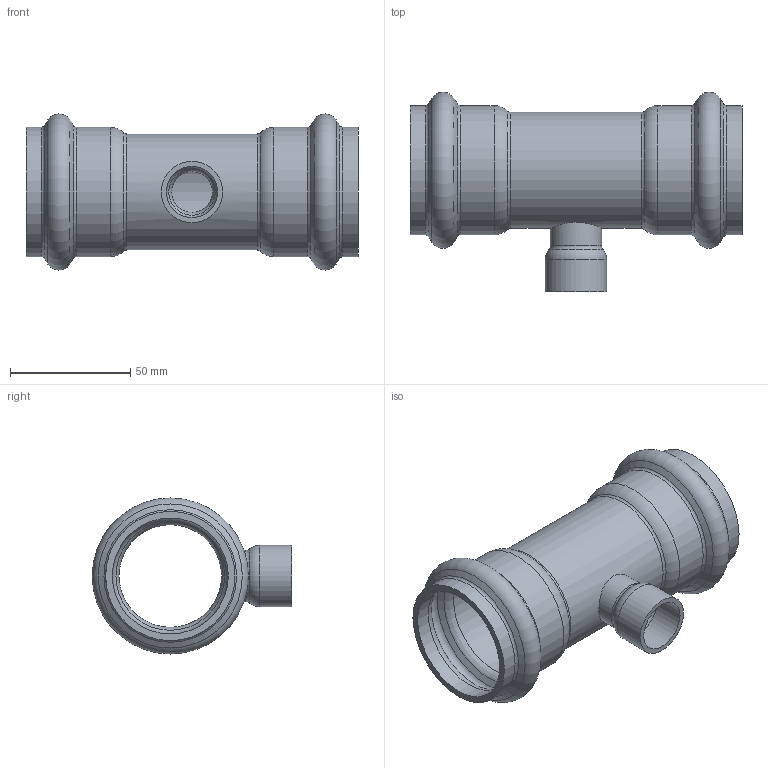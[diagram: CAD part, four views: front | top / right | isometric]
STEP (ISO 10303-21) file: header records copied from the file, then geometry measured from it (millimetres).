
FILE_DESCRIPTION(/* description */ ('VIC TEE RED. BRANCH STYLE P588 (P x P x F)','CAx-IF Rec.Pracs.---Representation and Presentation of Product Manufacturing Information (PMI)---4.0---2014-10-13'),/* implementation_level */ '2;1');
FILE_NAME(/* name */ 'C:\Users\Vjadhav\AppData\Roaming\Autodesk\ApplicationPlugins\Back Up\Victaulic_SS-Vic-Press-TP 304_Tee Threaded_Style P588 (VPxFPT)\Victaulic_SS-Vic-Press-TP 304_Tee Threaded_Style P588 (VPxFPT)_01.5x0.50 (40x15).stp',/* time_stamp */ '2020-08-12T18:49:46+05:00',/* author */ ('cgray'),/* organization */ ('Victaulic'),/* preprocessor_version */ 'ST-DEVELOPER v17.2',/* originating_system */ 'Autodesk Inventor 2019',/* authorisation */ '');
FILE_SCHEMA (('AP242_MANAGED_MODEL_BASED_3D_ENGINEERING_MIM_LF { 1 0 10303 442 1 1 4 }'));
Length unit declared in the file: inch
Products named in the file (1): P588-01.5x0.5
Bounding box: 138.18 x 83.03 x 64.97 mm (x, y, z)
Volume: 68659.4 mm3; surface area: 51576.9 mm2
Topology: 1 solids, 1 shells, 49 faces, 184 edges, 136 vertices
Faces by surface type: torus 24, cylinder 14, cone 8, plane 3
Full cylindrical faces by diameter (mm): 17.12 x1, 21.336 x2, 25.552 x1, 42.723 x1, 48.26 x5, 53.797 x4
Entity records: 2355 total; most frequent: CARTESIAN_POINT 459, DIRECTION 454, ORIENTED_EDGE 368, AXIS2_PLACEMENT_3D 215, EDGE_CURVE 184, CIRCLE 152, VERTEX_POINT 136, EDGE_LOOP 52
